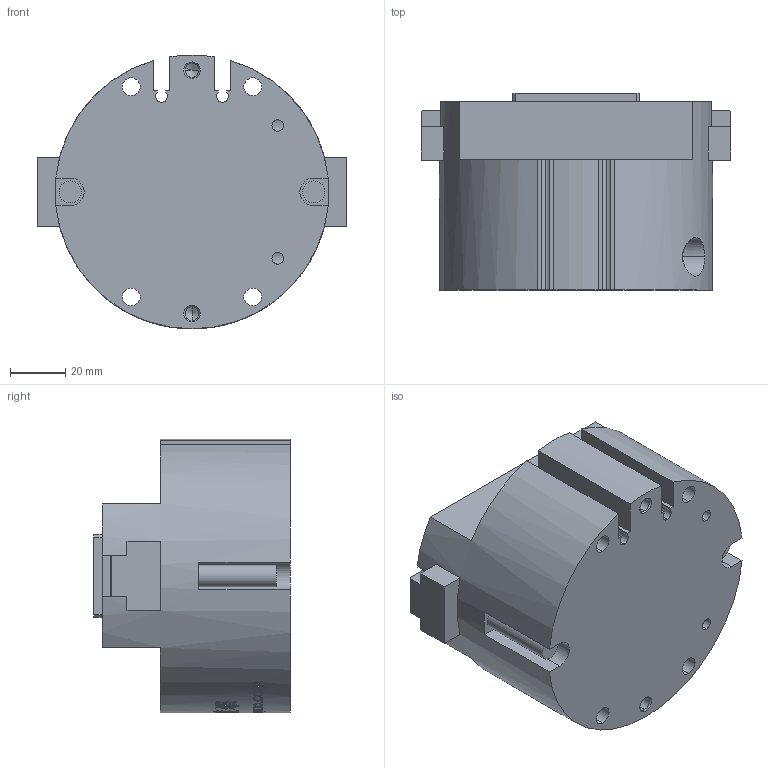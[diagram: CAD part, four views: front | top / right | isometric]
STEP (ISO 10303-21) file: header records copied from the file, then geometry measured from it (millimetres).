
FILE_DESCRIPTION (( 'STEP AP203' ), '1' );
FILE_NAME ('OPM-100-C2-原始檔-組合-W106.04.18.STEP', '2017-04-18T06:50:36', ( 'DanyaoCAD' ), ( '' ), 'SwSTEP 2.0', 'SolidWorks 2016', '' );
FILE_SCHEMA (( 'CONFIG_CONTROL_DESIGN' ));
Length unit declared in the file: millimetre
Products named in the file (3): Corpo; Griffa; OPM-100-C2-原始檔-組合-W106.04.18
Assembly tree (3 placements, depth 2):
  OPM-100-C2-原始檔-組合-W106.04.18
    Corpo
    Griffa  x2
Bounding box: 112 x 71 x 98.93 mm (x, y, z)
Volume: 445888.3 mm3; surface area: 65139.7 mm2
Topology: 3 solids, 3 shells, 951 faces, 2659 edges, 1766 vertices
Faces by surface type: bspline 665, plane 177, cylinder 97, cone 12
Entity records: 98283 total; most frequent: CARTESIAN_POINT 80109, ORIENTED_EDGE 5158, EDGE_CURVE 2579, B_SPLINE_CURVE_WITH_KNOTS 2042, VERTEX_POINT 1716, DIRECTION 1221, EDGE_LOOP 987, ADVANCED_FACE 920
